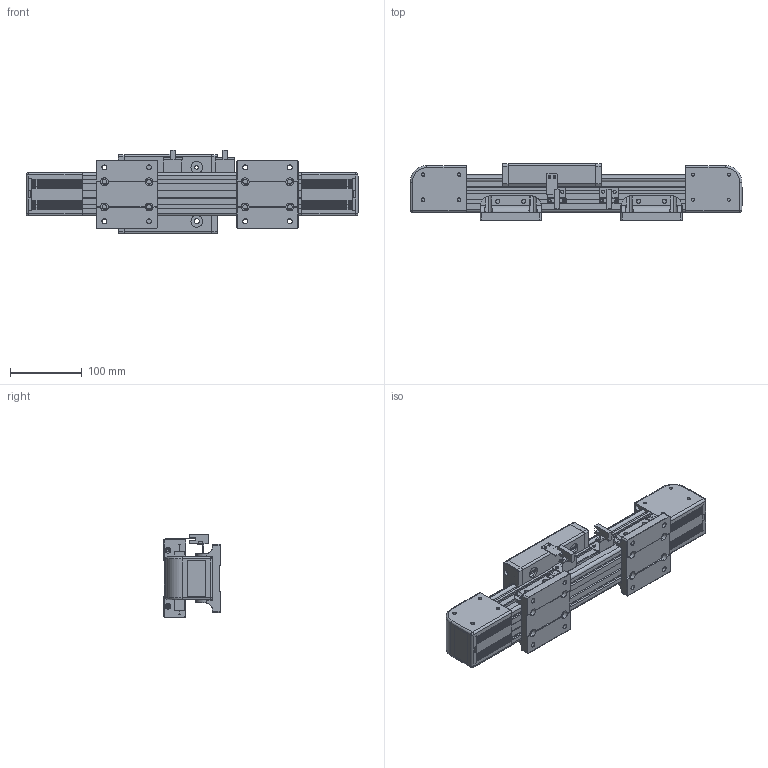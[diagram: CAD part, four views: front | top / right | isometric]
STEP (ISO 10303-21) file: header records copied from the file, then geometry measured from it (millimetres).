
FILE_DESCRIPTION (( 'STEP AP214' ), '1' );
FILE_NAME ('CF60-D-150-FW.STEP', '2020-01-15T07:13:56', ( '微软用户' ), ( '微软中国' ), 'SwSTEP 2.0', 'SolidWorks 2016', '' );
FILE_SCHEMA (( 'AUTOMOTIVE_DESIGN' ));
Length unit declared in the file: millimetre
Products named in the file (14): CF60-D-150-FW; 嫖萇羲壽; 嫖萇羲壽嘐隅え; P60肮祭湍嫖萇結啣; 8MM嫖粣絳寢-150; 60肮祭湍倰第-150; 菁釱; P60同步带导轨润滑棉安装块右; P60同步带导轨润滑棉安装块; P60肮祭湍坶諶; p60同步带滑块最终版; P60粣創釱傷裔; P60同步带轴承座初稿
Assembly tree (21 placements, depth 3):
  CF60-D-150-FW
    P60同步带轴承座初稿  x2
    P60粣創釱傷裔  x2
    p60同步带滑块最终版
    P60肮祭湍坶諶  x2
    P60同步带导轨润滑棉安装块  x2
    P60同步带导轨润滑棉安装块右  x2
    菁釱  x2
    60肮祭湍倰第-150
    8MM嫖粣絳寢-150  x2
    P60肮祭湍嫖萇結啣
    嫖萇羲壽  x2
      嫖萇羲壽嘐隅え
      嫖萇羲壽
Bounding box: 461.6 x 78.7 x 116.6 mm (x, y, z)
Volume: 1350265.1 mm3; surface area: 433065.5 mm2
Topology: 21 solids, 21 shells, 1402 faces, 3788 edges, 2464 vertices
Faces by surface type: cylinder 632, plane 606, torus 76, bspline 36, cone 32, sphere 20
Entity records: 30388 total; most frequent: CARTESIAN_POINT 7803, DIRECTION 4642, ORIENTED_EDGE 4584, EDGE_CURVE 2292, AXIS2_PLACEMENT_3D 1653, VERTEX_POINT 1506, VECTOR 1336, LINE 1336
